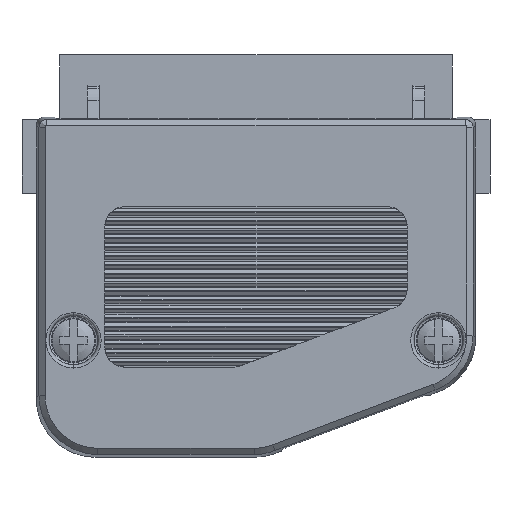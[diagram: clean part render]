
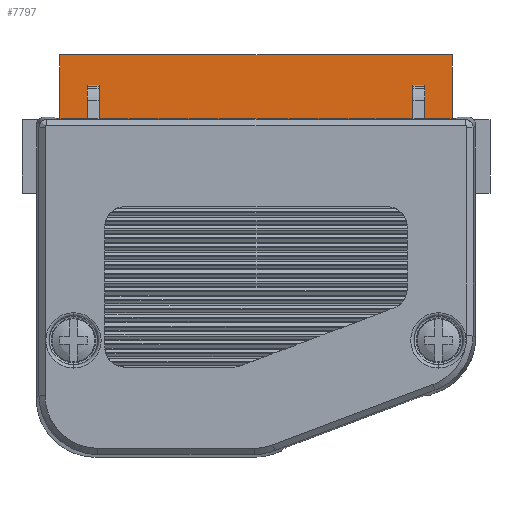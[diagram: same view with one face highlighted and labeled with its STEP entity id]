
A CAD part, front view. The second image highlights one B-rep face of the part: STEP entity #7797.
In plain terms, the highlighted planar face has unit normal (0, -1, 0.018).
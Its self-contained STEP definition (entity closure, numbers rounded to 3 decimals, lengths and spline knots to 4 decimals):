
#264=DIRECTION('',(0.,0.017,1.));
#265=VECTOR('',#264,0.3308);
#266=CARTESIAN_POINT('',(0.105,0.3108,0.));
#267=LINE('',#266,#265);
#842=DIRECTION('',(0.,0.017,1.));
#843=VECTOR('',#842,0.3308);
#844=CARTESIAN_POINT('',(2.105,0.3108,0.));
#845=LINE('',#844,#843);
#1261=DIRECTION('',(-1.,0.,0.));
#1262=VECTOR('',#1261,2.);
#1263=CARTESIAN_POINT('',(2.105,0.3108,0.));
#1264=LINE('',#1263,#1262);
#1601=DIRECTION('',(-1.,0.,0.));
#1602=VECTOR('',#1601,2.);
#1603=CARTESIAN_POINT('',(2.105,0.3165,0.3307));
#1604=LINE('',#1603,#1602);
#4175=CARTESIAN_POINT('',(2.105,0.3165,0.3307));
#4176=VERTEX_POINT('',#4175);
#4177=CARTESIAN_POINT('',(2.105,0.3108,0.));
#4178=VERTEX_POINT('',#4177);
#4977=CARTESIAN_POINT('',(0.105,0.3165,0.3307));
#4978=VERTEX_POINT('',#4977);
#5019=CARTESIAN_POINT('',(0.105,0.3108,0.));
#5020=VERTEX_POINT('',#5019);
#7785=CARTESIAN_POINT('',(1.105,0.3136,0.1654));
#7786=DIRECTION('',(0.,1.,-0.017));
#7787=DIRECTION('',(0.,0.017,1.));
#7788=AXIS2_PLACEMENT_3D('',#7785,#7786,#7787);
#7789=PLANE('',#7788);
#7790=ORIENTED_EDGE('',*,*,#6587,.F.);
#7791=ORIENTED_EDGE('',*,*,#7326,.T.);
#7792=ORIENTED_EDGE('',*,*,#5778,.T.);
#7794=ORIENTED_EDGE('',*,*,#7793,.F.);
#7795=EDGE_LOOP('',(#7790,#7791,#7792,#7794));
#7796=FACE_OUTER_BOUND('',#7795,.F.);
#7797=ADVANCED_FACE('',(#7796),#7789,.F.);
#5778=EDGE_CURVE('',#5020,#4978,#267,.T.);
#6587=EDGE_CURVE('',#4178,#4176,#845,.T.);
#7326=EDGE_CURVE('',#4178,#5020,#1264,.T.);
#7793=EDGE_CURVE('',#4176,#4978,#1604,.T.);
